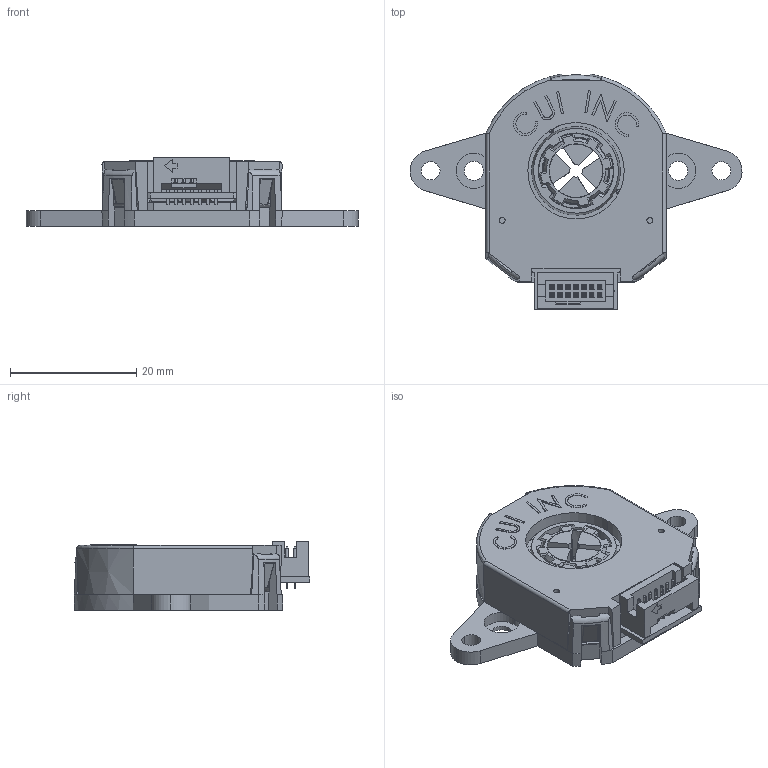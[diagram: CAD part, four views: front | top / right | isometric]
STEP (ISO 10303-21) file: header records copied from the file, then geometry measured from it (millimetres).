
FILE_DESCRIPTION (( 'STEP AP214' ), '1' );
FILE_NAME ('CUI_AMT113S-0048-2000-W.step', '2018-05-10T19:51:30', ( '' ), ( '' ), 'SwSTEP 2.0', 'SolidWorks 2018', '' );
FILE_SCHEMA (( 'AUTOMOTIVE_DESIGN' ));
Length unit declared in the file: millimetre
Products named in the file (12): Rotor_16f_5c_Rev_D; Transmitter-board_AMT203-303; Overmold_Rev_A; AMT-X03-Wide-Base REV B; AMT-Sleeve-REV-D_ 2 mm; Transmitter-board with connector_locking connector; AMT-Shaft-Adaptor-REVD_Fixed; AMT-Overmold_Hub-REV_A; Receiver-board; AMT-203_303-Top-Cover_Rev_D_14CLD; TFML-107-01-X-D-BASIC; CUI_AMT113S-0048-2000-W
Assembly tree (11 placements, depth 3):
  CUI_AMT113S-0048-2000-W
    AMT-203_303-Top-Cover_Rev_D_14CLD
    AMT-X03-Wide-Base REV B
    Overmold_Rev_A
      Rotor_16f_5c_Rev_D
      AMT-Overmold_Hub-REV_A
    AMT-Shaft-Adaptor-REVD_Fixed
    Transmitter-board with connector_locking connector
      Transmitter-board_AMT203-303
      TFML-107-01-X-D-BASIC
    Receiver-board
    AMT-Sleeve-REV-D_ 2 mm
Bounding box: 52.69 x 37.39 x 10.89 mm (x, y, z)
Volume: 5869.2 mm3; surface area: 11012.2 mm2
Topology: 9 solids, 9 shells, 5387 faces, 15801 edges, 10448 vertices
Faces by surface type: plane 4580, cylinder 553, cone 188, bspline 47, torus 19
Entity records: 230885 total; most frequent: CARTESIAN_POINT 36608, ORIENTED_EDGE 31594, DIRECTION 27497, EDGE_CURVE 15797, VECTOR 13685, LINE 13685, VERTEX_POINT 10448, AXIS2_PLACEMENT_3D 6906
